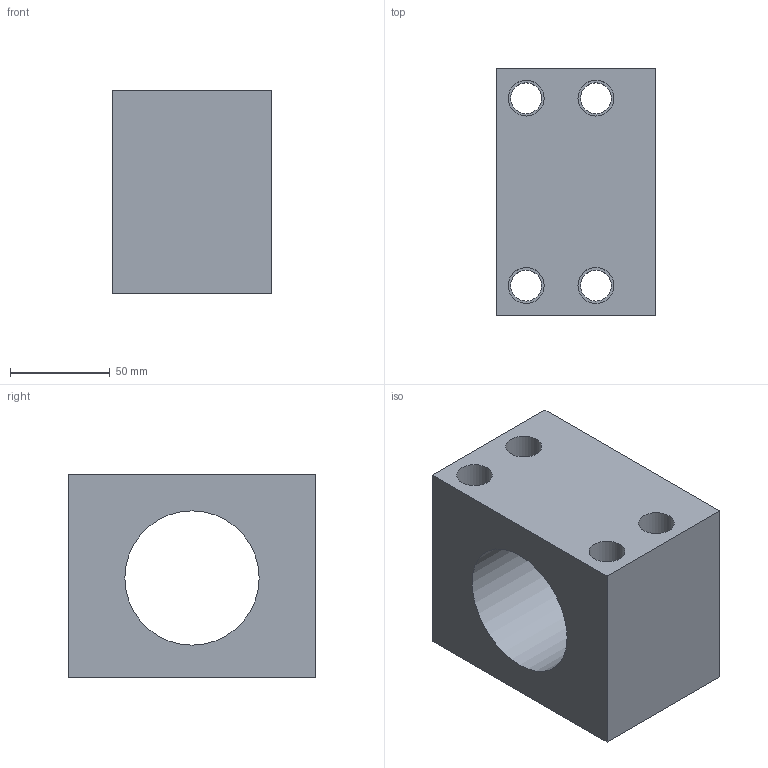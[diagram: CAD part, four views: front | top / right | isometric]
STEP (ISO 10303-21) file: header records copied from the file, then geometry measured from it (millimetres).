
FILE_DESCRIPTION(/* description */ (''),/* implementation_level */ '2;1');
FILE_NAME(/* name */ 'NH40C.stp',/* time_stamp */ '2017-08-19T10:16:51+08:00',/* author */ (''),/* organization */ (''),/* preprocessor_version */ 'ST-DEVELOPER v15',/* originating_system */ 'SIEMENS PLM Software NX 9.0',/* authorisation */ '');
FILE_SCHEMA (('CONFIG_CONTROL_DESIGN'));
Length unit declared in the file: millimetre
Products named in the file (1): NH40C
Bounding box: 80 x 124 x 102 mm (x, y, z)
Volume: 619345.3 mm3; surface area: 94463.1 mm2
Topology: 1 solids, 1 shells, 39 faces, 91 edges, 62 vertices
Faces by surface type: cylinder 19, plane 14, cone 6
Full cylindrical faces by diameter (mm): 6.8 x6, 15.5 x4, 18 x4, 25 x4, 67.4 x1
Entity records: 994 total; most frequent: DIRECTION 168, CARTESIAN_POINT 142, ORIENTED_EDGE 100, FACE_BOUND 86, EDGE_LOOP 82, AXIS2_PLACEMENT_3D 78, VERTEX_POINT 52, EDGE_CURVE 50
